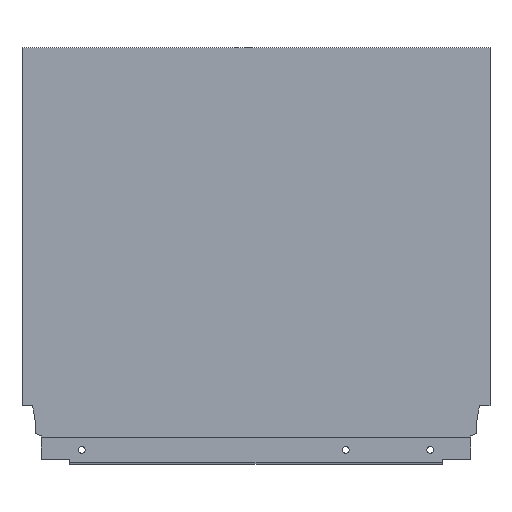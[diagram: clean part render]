
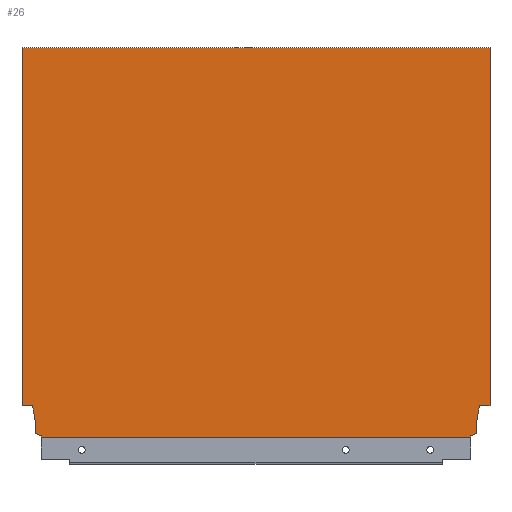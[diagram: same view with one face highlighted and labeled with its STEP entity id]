
A CAD part, top view. The second image highlights one B-rep face of the part: STEP entity #26.
In plain terms, the highlighted planar face has unit normal (0, 0, 1).
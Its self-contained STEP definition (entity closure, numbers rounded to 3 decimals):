
#26 = ADVANCED_FACE ( 'NONE', ( #270 ), #1343, .T. ) ;
#97 = VECTOR ( 'NONE', #885, 1000. ) ;
#101 = VECTOR ( 'NONE', #890, 1000. ) ;
#105 = VECTOR ( 'NONE', #895, 1000. ) ;
#108 = LINE ( 'NONE', #891, #97 ) ;
#109 = VECTOR ( 'NONE', #902, 1000. ) ;
#110 = VECTOR ( 'NONE', #905, 1000. ) ;
#111 = LINE ( 'NONE', #906, #110 ) ;
#112 = VECTOR ( 'NONE', #907, 1000. ) ;
#113 = LINE ( 'NONE', #909, #112 ) ;
#114 = VECTOR ( 'NONE', #911, 1000. ) ;
#115 = LINE ( 'NONE', #912, #114 ) ;
#118 = VECTOR ( 'NONE', #917, 1000. ) ;
#119 = LINE ( 'NONE', #918, #118 ) ;
#120 = VECTOR ( 'NONE', #920, 1000. ) ;
#121 = LINE ( 'NONE', #921, #120 ) ;
#123 = LINE ( 'NONE', #946, #109 ) ;
#124 = LINE ( 'NONE', #898, #101 ) ;
#125 = VECTOR ( 'NONE', #930, 1000. ) ;
#126 = LINE ( 'NONE', #931, #125 ) ;
#129 = VECTOR ( 'NONE', #935, 1000. ) ;
#130 = LINE ( 'NONE', #936, #129 ) ;
#133 = LINE ( 'NONE', #904, #105 ) ;
#134 = VECTOR ( 'NONE', #943, 1000. ) ;
#135 = LINE ( 'NONE', #924, #142 ) ;
#137 = VECTOR ( 'NONE', #949, 1000. ) ;
#138 = LINE ( 'NONE', #950, #137 ) ;
#141 = LINE ( 'NONE', #948, #134 ) ;
#142 = VECTOR ( 'NONE', #923, 1000. ) ;
#270 = FACE_OUTER_BOUND ( 'NONE', #311, .T. ) ;
#311 = EDGE_LOOP ( 'NONE', ( #589, #588, #587, #586, #585, #584, #583, #582, #581, #580, #579, #578, #577, #576 ) ) ;
#531 = AXIS2_PLACEMENT_3D ( 'NONE', #1340, #1332, #1331 ) ;
#576 = ORIENTED_EDGE ( 'NONE', *, *, #1402, .F. ) ;
#577 = ORIENTED_EDGE ( 'NONE', *, *, #1409, .F. ) ;
#578 = ORIENTED_EDGE ( 'NONE', *, *, #1400, .F. ) ;
#579 = ORIENTED_EDGE ( 'NONE', *, *, #1398, .F. ) ;
#580 = ORIENTED_EDGE ( 'NONE', *, *, #1396, .F. ) ;
#581 = ORIENTED_EDGE ( 'NONE', *, *, #1407, .F. ) ;
#582 = ORIENTED_EDGE ( 'NONE', *, *, #1405, .F. ) ;
#583 = ORIENTED_EDGE ( 'NONE', *, *, #1388, .T. ) ;
#584 = ORIENTED_EDGE ( 'NONE', *, *, #1397, .F. ) ;
#585 = ORIENTED_EDGE ( 'NONE', *, *, #1392, .F. ) ;
#586 = ORIENTED_EDGE ( 'NONE', *, *, #1403, .F. ) ;
#587 = ORIENTED_EDGE ( 'NONE', *, *, #1390, .F. ) ;
#588 = ORIENTED_EDGE ( 'NONE', *, *, #1401, .F. ) ;
#589 = ORIENTED_EDGE ( 'NONE', *, *, #1394, .T. ) ;
#885 = DIRECTION ( 'NONE',  ( 0., -1., 0. ) ) ;
#890 = DIRECTION ( 'NONE',  ( -0.94, -0.342, 0. ) ) ;
#891 = CARTESIAN_POINT ( 'NONE',  ( 0., 0., 8. ) ) ;
#895 = DIRECTION ( 'NONE',  ( 0., -1., 0. ) ) ;
#898 = CARTESIAN_POINT ( 'NONE',  ( -8.9, 2.64, 8. ) ) ;
#902 = DIRECTION ( 'NONE',  ( 0., 1., 0. ) ) ;
#904 = CARTESIAN_POINT ( 'NONE',  ( -13.004, 1.146, 8. ) ) ;
#905 = DIRECTION ( 'NONE',  ( 1., 0., 0. ) ) ;
#906 = CARTESIAN_POINT ( 'NONE',  ( -313., 260.7, 8. ) ) ;
#907 = DIRECTION ( 'NONE',  ( -1., 0., 0. ) ) ;
#909 = CARTESIAN_POINT ( 'NONE',  ( -318., 21.2, 8. ) ) ;
#911 = DIRECTION ( 'NONE',  ( -1., 0., 0. ) ) ;
#912 = CARTESIAN_POINT ( 'NONE',  ( 0., 21.2, 8. ) ) ;
#917 = DIRECTION ( 'NONE',  ( -0.174, -0.985, 0. ) ) ;
#918 = CARTESIAN_POINT ( 'NONE',  ( -7.06, 21.2, 8. ) ) ;
#920 = DIRECTION ( 'NONE',  ( 0., 1., 0. ) ) ;
#921 = CARTESIAN_POINT ( 'NONE',  ( -299.996, 1.146, 8. ) ) ;
#923 = DIRECTION ( 'NONE',  ( 0., -1., 0. ) ) ;
#924 = CARTESIAN_POINT ( 'NONE',  ( -8.9, 10.765, 8. ) ) ;
#930 = DIRECTION ( 'NONE',  ( 0., -1., 0. ) ) ;
#931 = CARTESIAN_POINT ( 'NONE',  ( -313., 0., 8. ) ) ;
#935 = DIRECTION ( 'NONE',  ( -0.94, 0.342, 0. ) ) ;
#936 = CARTESIAN_POINT ( 'NONE',  ( -304.1, 2.64, 8. ) ) ;
#943 = DIRECTION ( 'NONE',  ( -0.174, 0.985, 0. ) ) ;
#946 = CARTESIAN_POINT ( 'NONE',  ( -304.1, 10.765, 8. ) ) ;
#948 = CARTESIAN_POINT ( 'NONE',  ( -305.94, 21.2, 8. ) ) ;
#949 = DIRECTION ( 'NONE',  ( 1., 0., 0. ) ) ;
#950 = CARTESIAN_POINT ( 'NONE',  ( -313., 0., 8. ) ) ;
#1033 = CARTESIAN_POINT ( 'NONE',  ( -8.9, 2.64, 8. ) ) ;
#1034 = VERTEX_POINT ( 'NONE', #1138 ) ;
#1035 = CARTESIAN_POINT ( 'NONE',  ( -7.06, 21.2, 8. ) ) ;
#1048 = VERTEX_POINT ( 'NONE', #1130 ) ;
#1052 = VERTEX_POINT ( 'NONE', #1129 ) ;
#1061 = VERTEX_POINT ( 'NONE', #1125 ) ;
#1070 = VERTEX_POINT ( 'NONE', #1121 ) ;
#1073 = VERTEX_POINT ( 'NONE', #1120 ) ;
#1086 = CARTESIAN_POINT ( 'NONE',  ( -299.996, 0., 8. ) ) ;
#1094 = CARTESIAN_POINT ( 'NONE',  ( -8.9, 10.765, 8. ) ) ;
#1096 = VERTEX_POINT ( 'NONE', #1110 ) ;
#1100 = CARTESIAN_POINT ( 'NONE',  ( -304.1, 2.64, 8. ) ) ;
#1101 = VERTEX_POINT ( 'NONE', #1109 ) ;
#1105 = CARTESIAN_POINT ( 'NONE',  ( -13.004, 0., 8. ) ) ;
#1109 = CARTESIAN_POINT ( 'NONE',  ( -313., 21.2, 8. ) ) ;
#1110 = CARTESIAN_POINT ( 'NONE',  ( 0., 21.2, 8. ) ) ;
#1112 = VERTEX_POINT ( 'NONE', #1105 ) ;
#1120 = CARTESIAN_POINT ( 'NONE',  ( -304.1, 10.765, 8. ) ) ;
#1121 = CARTESIAN_POINT ( 'NONE',  ( -305.94, 21.2, 8. ) ) ;
#1123 = VERTEX_POINT ( 'NONE', #1100 ) ;
#1125 = CARTESIAN_POINT ( 'NONE',  ( -13.004, 1.146, 8. ) ) ;
#1129 = CARTESIAN_POINT ( 'NONE',  ( -313., 260.7, 8. ) ) ;
#1130 = CARTESIAN_POINT ( 'NONE',  ( -299.996, 1.146, 8. ) ) ;
#1138 = CARTESIAN_POINT ( 'NONE',  ( 0., 260.7, 8. ) ) ;
#1141 = VERTEX_POINT ( 'NONE', #1094 ) ;
#1165 = VERTEX_POINT ( 'NONE', #1086 ) ;
#1293 = VERTEX_POINT ( 'NONE', #1035 ) ;
#1299 = VERTEX_POINT ( 'NONE', #1033 ) ;
#1331 = DIRECTION ( 'NONE',  ( 1., 0., 0. ) ) ;
#1332 = DIRECTION ( 'NONE',  ( 0., 0., 1. ) ) ;
#1340 = CARTESIAN_POINT ( 'NONE',  ( -313., 0., 8. ) ) ;
#1343 = PLANE ( 'NONE',  #531 ) ;
#1388 = EDGE_CURVE ( 'NONE', #1165, #1112, #138, .T. ) ;
#1390 = EDGE_CURVE ( 'NONE', #1073, #1070, #141, .T. ) ;
#1392 = EDGE_CURVE ( 'NONE', #1048, #1123, #130, .T. ) ;
#1394 = EDGE_CURVE ( 'NONE', #1052, #1101, #126, .T. ) ;
#1396 = EDGE_CURVE ( 'NONE', #1141, #1299, #135, .T. ) ;
#1397 = EDGE_CURVE ( 'NONE', #1165, #1048, #121, .T. ) ;
#1398 = EDGE_CURVE ( 'NONE', #1293, #1141, #119, .T. ) ;
#1400 = EDGE_CURVE ( 'NONE', #1096, #1293, #115, .T. ) ;
#1401 = EDGE_CURVE ( 'NONE', #1070, #1101, #113, .T. ) ;
#1402 = EDGE_CURVE ( 'NONE', #1052, #1034, #111, .T. ) ;
#1403 = EDGE_CURVE ( 'NONE', #1123, #1073, #123, .T. ) ;
#1405 = EDGE_CURVE ( 'NONE', #1061, #1112, #133, .T. ) ;
#1407 = EDGE_CURVE ( 'NONE', #1299, #1061, #124, .T. ) ;
#1409 = EDGE_CURVE ( 'NONE', #1034, #1096, #108, .T. ) ;
